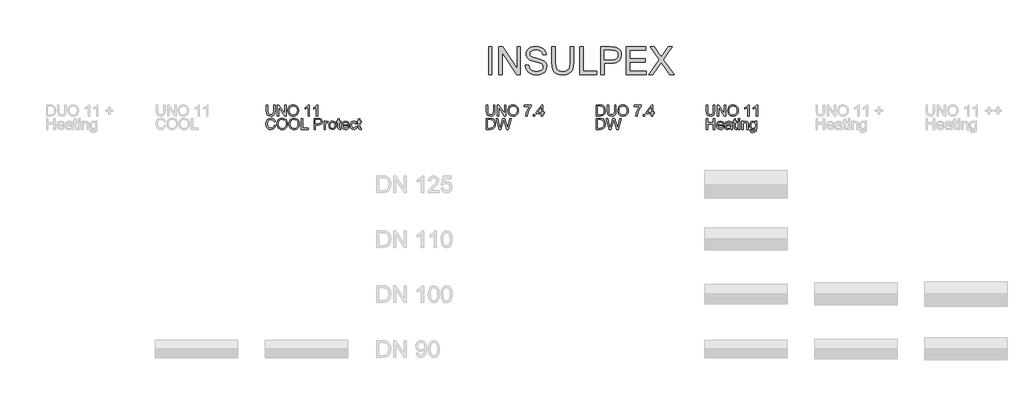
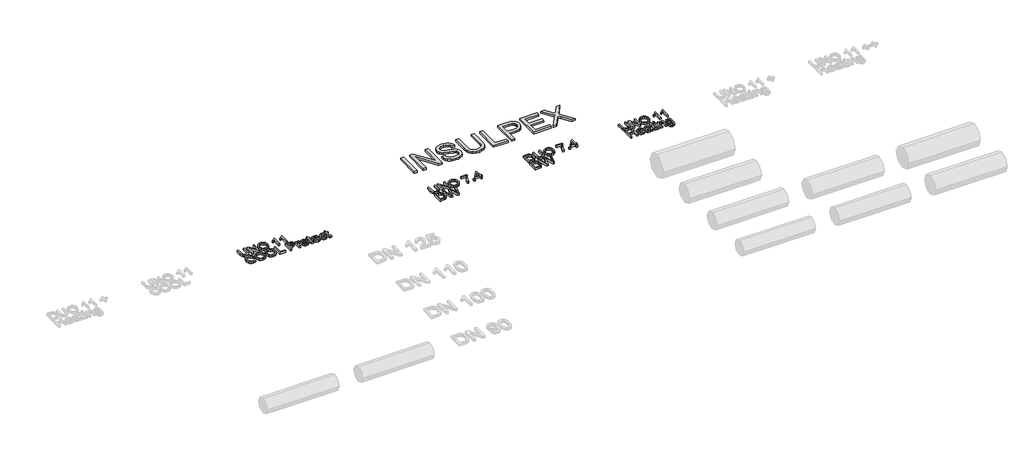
# One storey, part 34 of 44: 5 proxies.
"""IFC4 building model written with IfcOpenShell, lengths in millimetres."""

from ifc_helpers import new_model, si_unit, origin, origin_with_axes, place, context, project, spatial, polyline, outline, extrude, element, save

model = new_model("IFC4")

# Units and contexts
model_context = context("Model", 3, world=origin())
ifc_project = project(units=[si_unit("LENGTHUNIT", "METRE", prefix="MILLI")], contexts=[model_context])

# Site, building, storey
site = spatial("IfcSite", under=ifc_project)
building = spatial("IfcBuilding", under=site)
storey = spatial("IfcBuildingStorey", under=building, Name="REHAU Starting view", Elevation=0.0)

# Proxies
placement = place(None, origin())
element("IfcBuildingElementProxy", 1, Name="100", ObjectType="100", at=placement, inside=storey, context=model_context, shape_type="SweptSolid", body=[
    extrude(outline(polyline([(14076.9118625, 20222.431128), (14089.4689012, 20222.431128), (14089.4689012, 20164.477451), (14086.0598614, 20140.4547567), (14073.7726028, 20125.9847316), (14063.5086951, 20121.8000739), (14050.4734097, 20120.405188), (14027.529836, 20125.2612303), (14019.8901532, 20131.2055902), (14014.8011189, 20139.3265853), (14010.9874089, 20164.477451), (14010.9874089, 20222.431128), (14023.5444477, 20222.431128), (14023.5444477, 20164.9189094), (14026.0215198, 20145.7767829), (14034.5318566, 20136.2976902), (14049.2961874, 20132.9622268), (14062.067824, 20134.6115644), (14070.5597667, 20139.5595772), (14075.3238385, 20149.1980855), (14076.9118625, 20164.9189094), (14076.9118625, 20222.431128)])), origin_with_axes(), (0.0, 0.0, 1.0), 20.0),
    extrude(outline(polyline([(14111.4437191, 20121.9748178), (14111.4437191, 20222.431128), (14124.8836746, 20222.431128), (14177.3681726, 20142.8459897), (14177.3681726, 20222.431128), (14189.9252114, 20222.431128), (14189.9252114, 20121.9748178), (14176.4852558, 20121.9748178), (14124.0007578, 20201.5844816), (14124.0007578, 20121.9748178), (14111.4437191, 20121.9748178)])), origin_with_axes(), (0.0, 0.0, 1.0), 20.0),
    extrude(outline(polyline([(14207.1911397, 20170.8785977), (14210.5388658, 20193.0925389), (14220.5820443, 20209.8986147), (14235.9165921, 20220.4752221), (14255.1384264, 20224.0007578), (14268.3147332, 20222.3452889), (14280.1298766, 20217.3788819), (14289.9400631, 20209.4510249), (14297.1014993, 20198.9112058), (14301.479295, 20186.2683279), (14302.9385603, 20172.0312947), (14301.402653, 20157.6041891), (14296.794931, 20144.7835015), (14289.369846, 20134.2252883), (14279.3818499, 20126.5856055), (14267.667874, 20121.9502924), (14255.06485, 20120.405188), (14241.6862081, 20122.1127736), (14229.8036197, 20127.2355304), (14220.0179586, 20135.3105402), (14212.9300988, 20145.8748848), (14207.1911397, 20170.8785977)]), holes=[polyline([(14219.7481785, 20170.7559704), (14222.2589731, 20155.0412778), (14229.7913569, 20143.0667189), (14241.1129253, 20135.4883498), (14254.9912736, 20132.9622268), (14269.071957, 20135.5128753), (14280.4119195, 20143.1648208), (14287.889121, 20155.5072617), (14290.3815215, 20172.1293965), (14286.1140904, 20192.8534156), (14273.6428907, 20206.575414), (14255.2120028, 20211.4437191), (14241.7046022, 20209.0984714), (14230.2205526, 20202.0627282), (14222.366272, 20189.5455433), (14219.7481785, 20170.7559704)])]), origin_with_axes(), (0.0, 0.0, 1.0), 20.0),
    extrude(outline(polyline([(14401.8252406, 20121.9748178), (14389.2682018, 20121.9748178), (14389.2682018, 20200.2601064), (14377.3733507, 20191.7865578), (14364.1541243, 20185.4467247), (14364.1541243, 20197.3170505), (14382.5604868, 20209.0647488), (14393.7318367, 20222.431128), (14401.8252406, 20222.431128), (14401.8252406, 20121.9748178)])), origin_with_axes(), (0.0, 0.0, 1.0), 20.0),
    extrude(outline(polyline([(14478.7371031, 20121.9748178), (14466.1800643, 20121.9748178), (14466.1800643, 20200.2601064), (14454.2852131, 20191.7865578), (14441.0659868, 20185.4467247), (14441.0659868, 20197.3170505), (14459.4723492, 20209.0647488), (14470.6436992, 20222.431128), (14478.7371031, 20222.431128), (14478.7371031, 20121.9748178)])), origin_with_axes(), (0.0, 0.0, 1.0), 20.0),
    extrude(outline(polyline([(14081.620752, 20035.709079), (14094.1777908, 20032.4717174), (14088.3836493, 20017.8392111), (14079.2908327, 20007.1491734), (14067.3469306, 20000.610071), (14052.9995328, 19998.4303702), (14038.4344714, 20000.0797078), (14026.8676484, 20005.0277206), (14018.0016923, 20013.1027304), (14011.5392319, 20024.1330589), (14006.2785194, 20050.9884445), (14007.7653758, 20065.6362793), (14012.225945, 20078.2852886), (14019.427235, 20088.5338678), (14029.136254, 20095.9804125), (14040.6509605, 20100.5145581), (14053.2693129, 20102.02594), (14067.0372966, 20100.0700341), (14078.4201786, 20094.2023162), (14087.0623398, 20084.7845372), (14092.6081609, 20072.1784475), (14080.0511222, 20069.1863406), (14069.7504263, 20084.6251216), (14052.7788036, 20089.4689012), (14033.133905, 20084.0978241), (14022.0361315, 20069.6768499), (14018.8355582, 20051.01297), (14022.6247427, 20029.3815087), (14034.421492, 20015.5614084), (14051.748734, 20010.9874089), (14062.2303052, 20012.544776), (14070.9644369, 20017.2168774), (14077.5587216, 20024.954662), (14081.620752, 20035.709079)])), origin_with_axes(), (0.0, 0.0, 1.0), 20.0),
    extrude(outline(polyline([(14106.7348295, 20048.9037799), (14110.0825557, 20071.117721), (14120.1257342, 20087.9237968), (14135.460282, 20098.5004042), (14154.6821162, 20102.02594), (14167.858423, 20100.370471), (14179.6735664, 20095.4040641), (14189.483753, 20087.4762071), (14196.6451892, 20076.9363879), (14201.0229849, 20064.29351), (14202.4822501, 20050.0564768), (14200.9463428, 20035.6293712), (14196.3386208, 20022.8086837), (14188.9135359, 20012.2504704), (14178.9255397, 20004.6107877), (14167.2115639, 19999.9754745), (14154.6085398, 19998.4303702), (14141.2298979, 20000.1379557), (14129.3473095, 20005.2607125), (14119.5616484, 20013.3357223), (14112.4737887, 20023.900067), (14106.7348295, 20048.9037799)]), holes=[polyline([(14119.2918683, 20048.7811526), (14121.8026629, 20033.06646), (14129.3350468, 20021.0919011), (14140.6566152, 20013.513532), (14154.5349634, 20010.9874089), (14168.6156468, 20013.5380574), (14179.9556093, 20021.1900029), (14187.4328109, 20033.5324439), (14189.9252114, 20050.1545787), (14185.6577802, 20070.8785977), (14173.1865806, 20084.6005962), (14154.7556926, 20089.4689012), (14141.248292, 20087.1236535), (14129.7642424, 20080.0879103), (14121.9099618, 20067.5707255), (14119.2918683, 20048.7811526)])]), origin_with_axes(), (0.0, 0.0, 1.0), 20.0),
    extrude(outline(polyline([(14215.0392889, 20048.9037799), (14218.3870151, 20071.117721), (14228.4301935, 20087.9237968), (14243.7647414, 20098.5004042), (14262.9865756, 20102.02594), (14276.1628824, 20100.370471), (14287.9780258, 20095.4040641), (14297.7882124, 20087.4762071), (14304.9496485, 20076.9363879), (14309.3274443, 20064.29351), (14310.7867095, 20050.0564768), (14309.2508022, 20035.6293712), (14304.6430802, 20022.8086837), (14297.2179953, 20012.2504704), (14287.2299991, 20004.6107877), (14275.5160232, 19999.9754745), (14262.9129992, 19998.4303702), (14249.5343573, 20000.1379557), (14237.6517689, 20005.2607125), (14227.8661078, 20013.3357223), (14220.778248, 20023.900067), (14215.0392889, 20048.9037799)]), holes=[polyline([(14227.5963277, 20048.7811526), (14230.1071223, 20033.06646), (14237.6395062, 20021.0919011), (14248.9610746, 20013.513532), (14262.8394228, 20010.9874089), (14276.9201062, 20013.5380574), (14288.2600687, 20021.1900029), (14295.7372702, 20033.5324439), (14298.2296708, 20050.1545787), (14293.9622396, 20070.8785977), (14281.49104, 20084.6005962), (14263.060152, 20089.4689012), (14249.5527514, 20087.1236535), (14238.0687018, 20080.0879103), (14230.2144212, 20067.5707255), (14227.5963277, 20048.7811526)])]), origin_with_axes(), (0.0, 0.0, 1.0), 20.0),
    extrude(outline(polyline([(14328.0526378, 20000.0), (14328.0526378, 20100.4563101), (14340.6096766, 20100.4563101), (14340.6096766, 20012.5570388), (14390.8378317, 20012.5570388), (14390.8378317, 20000.0), (14328.0526378, 20000.0)])), origin_with_axes(), (0.0, 0.0, 1.0), 20.0),
    extrude(outline(polyline([(14444.2052464, 20000.0), (14444.2052464, 20100.4563101), (14481.4349044, 20100.4563101), (14496.4444898, 20099.499817), (14508.6459093, 20094.8031902), (14516.5553722, 20085.0911055), (14519.5474791, 20071.3936325), (14517.5271938, 20059.5539637), (14511.4663379, 20049.6885948), (14500.1325068, 20043.0299307), (14482.2932957, 20040.810376), (14456.7622852, 20040.810376), (14456.7622852, 20000.0), (14444.2052464, 20000.0)]), holes=[polyline([(14456.7622852, 20053.3674148), (14483.0290597, 20053.3674148), (14501.5212613, 20057.9782024), (14505.6231455, 20063.5270892), (14506.9904403, 20070.9521741), (14503.7653415, 20081.3509719), (14495.2917928, 20087.0408801), (14482.7347541, 20087.8992714), (14456.7622852, 20087.8992714), (14456.7622852, 20053.3674148)])]), origin_with_axes(), (0.0, 0.0, 1.0), 20.0),
    extrude(outline(polyline([(14535.2437775, 20000.0), (14535.2437775, 20073.7726028), (14546.2311864, 20073.7726028), (14546.2311864, 20062.8587702), (14554.0302847, 20072.9142114), (14561.878434, 20075.3422326), (14574.4845237, 20071.4672089), (14570.2906689, 20060.2100199), (14561.461501, 20062.7851938), (14554.3613785, 20060.3081217), (14549.83643, 20053.4409912), (14547.8008163, 20038.7747623), (14547.8008163, 20000.0), (14535.2437775, 20000.0)])), origin_with_axes(), (0.0, 0.0, 1.0), 20.0),
    extrude(outline(polyline([(14579.1934132, 20036.8863014), (14581.9096086, 20054.6733958), (14590.0581948, 20067.1752523), (14600.1258987, 20073.3004875), (14612.1801654, 20075.3422326), (14625.3718007, 20072.8559635), (14635.9085541, 20065.397156), (14642.8155386, 20053.5544214), (14645.1178667, 20037.916371), (14641.0466393, 20015.5736711), (14629.1885764, 20002.9307932), (14612.1801654, 19998.4303702), (14598.8291147, 20000.9074423), (14588.304624, 20008.3386586), (14581.4712159, 20020.4297135), (14579.1934132, 20036.8863014)]), holes=[polyline([(14591.750452, 20036.9108268), (14593.2035859, 20025.5463389), (14597.5629875, 20017.4498693), (14604.1235497, 20012.603024), (14612.1801654, 20010.9874089), (14620.1999929, 20012.6122211), (14626.7482924, 20017.4866575), (14631.1076941, 20025.690426), (14632.560828, 20037.3032343), (14631.098497, 20048.3366285), (14626.7115043, 20056.3227335), (14620.1540077, 20061.1695787), (14612.1801654, 20062.7851938), (14604.1235497, 20061.1757101), (14597.5629875, 20056.3472589), (14593.2035859, 20048.2691835), (14591.750452, 20036.9108268)])]), origin_with_axes(), (0.0, 0.0, 1.0), 20.0),
    extrude(outline(polyline([(14685.9282427, 20010.4723741), (14687.4978726, 19999.632118), (14678.104619, 19998.4303702), (14667.5831939, 20000.5150348), (14662.3347441, 20005.9842138), (14660.8141652, 20020.2335097), (14660.8141652, 20061.215564), (14651.3963861, 20061.215564), (14651.3963861, 20073.7726028), (14660.8141652, 20073.7726028), (14660.8141652, 20091.7007187), (14673.371204, 20099.082884), (14673.371204, 20073.7726028), (14685.9282427, 20073.7726028), (14685.9282427, 20061.215564), (14673.371204, 20061.215564), (14673.371204, 20020.6013917), (14674.0333916, 20014.1266686), (14676.1793699, 20011.8335375), (14680.4590637, 20010.9874089), (14685.9282427, 20010.4723741)])), origin_with_axes(), (0.0, 0.0, 1.0), 20.0),
    extrude(outline(polyline([(14750.1359136, 20021.9748178), (14762.4476977, 20020.405188), (14758.011654, 20011.1284304), (14750.9329913, 20004.1938547), (14741.3711251, 19999.8712413), (14729.485471, 19998.4303702), (14714.7517971, 20000.9166393), (14703.4149002, 20008.3754468), (14696.186019, 20020.3224146), (14693.776392, 20036.2731647), (14696.2105445, 20052.7604095), (14703.5130021, 20065.0905877), (14714.6966148, 20072.7793214), (14728.7742324, 20075.3422326), (14742.4134574, 20072.7854527), (14753.3119615, 20065.1151131), (14760.4580693, 20052.8094604), (14762.8401052, 20036.3467411), (14762.7665288, 20032.9622268), (14706.3334307, 20032.9622268), (14708.5070002, 20023.5628418), (14713.5561806, 20016.6527916), (14720.8433098, 20012.4037546), (14729.7307256, 20010.9874089), (14742.0425097, 20013.6116338), (14750.1359136, 20021.9748178)]), holes=[polyline([(14706.3334307, 20045.5192655), (14750.2830664, 20045.5192655), (14745.2553458, 20056.8990819), (14737.9344941, 20061.3136659), (14728.7251815, 20062.7851938), (14713.261875, 20058.088567), (14708.3966356, 20052.5979283), (14706.3334307, 20045.5192655)])]), origin_with_axes(), (0.0, 0.0, 1.0), 20.0),
    extrude(outline(polyline([(14822.4860393, 20026.6837074), (14835.0430781, 20025.1140775), (14831.5420678, 20013.9457933), (14824.9631115, 20005.5059672), (14815.9254771, 20000.1992694), (14805.0484328, 19998.4303702), (14791.6912507, 20000.8982452), (14781.2464677, 20008.3018704), (14774.5050301, 20020.3162832), (14772.2578843, 20036.6165213), (14776.0961198, 20057.4754304), (14787.7947672, 20070.8785977), (14804.8767545, 20075.3422326), (14815.4870844, 20073.809391), (14823.9698301, 20069.210866), (14830.0552114, 20061.7919125), (14833.4734483, 20051.7977849), (14820.9164095, 20050.2281551), (14815.0916112, 20059.6336714), (14804.9748564, 20062.7851938), (14796.8599927, 20061.2339581), (14790.4189921, 20056.5802509), (14786.2159403, 20048.5726861), (14784.814923, 20036.9598778), (14786.1852835, 20025.1907196), (14790.2963648, 20017.1555637), (14796.6208694, 20012.5294476), (14804.6314999, 20010.9874089), (14816.4650374, 20014.8379071), (14822.4860393, 20026.6837074)])), origin_with_axes(), (0.0, 0.0, 1.0), 20.0),
    extrude(outline(polyline([(14872.7141944, 20010.4723741), (14874.2838243, 19999.632118), (14864.8905707, 19998.4303702), (14854.3691456, 20000.5150348), (14849.1206958, 20005.9842138), (14847.6001169, 20020.2335097), (14847.6001169, 20061.215564), (14838.1823378, 20061.215564), (14838.1823378, 20073.7726028), (14847.6001169, 20073.7726028), (14847.6001169, 20091.7007187), (14860.1571557, 20099.082884), (14860.1571557, 20073.7726028), (14872.7141944, 20073.7726028), (14872.7141944, 20061.215564), (14860.1571557, 20061.215564), (14860.1571557, 20020.6013917), (14860.8193432, 20014.1266686), (14862.9653216, 20011.8335375), (14867.2450154, 20010.9874089), (14872.7141944, 20010.4723741)])), origin_with_axes(), (0.0, 0.0, 1.0), 20.0),
])
element("IfcBuildingElementProxy", 2, Name="100", ObjectType="100", at=placement, inside=storey, context=model_context, shape_type="SweptSolid", body=[
    extrude(outline(polyline([(16076.9118625, 20222.431128), (16089.4689012, 20222.431128), (16089.4689012, 20164.477451), (16086.0598614, 20140.4547567), (16073.7726028, 20125.9847316), (16063.5086951, 20121.8000739), (16050.4734097, 20120.405188), (16027.529836, 20125.2612303), (16019.8901532, 20131.2055902), (16014.8011189, 20139.3265853), (16010.9874089, 20164.477451), (16010.9874089, 20222.431128), (16023.5444477, 20222.431128), (16023.5444477, 20164.9189094), (16026.0215198, 20145.7767829), (16034.5318566, 20136.2976902), (16049.2961874, 20132.9622268), (16062.067824, 20134.6115644), (16070.5597667, 20139.5595772), (16075.3238385, 20149.1980855), (16076.9118625, 20164.9189094), (16076.9118625, 20222.431128)])), origin_with_axes(), (0.0, 0.0, 1.0), 20.0),
    extrude(outline(polyline([(16111.4437191, 20121.9748178), (16111.4437191, 20222.431128), (16124.8836746, 20222.431128), (16177.3681726, 20142.8459897), (16177.3681726, 20222.431128), (16189.9252114, 20222.431128), (16189.9252114, 20121.9748178), (16176.4852558, 20121.9748178), (16124.0007578, 20201.5844816), (16124.0007578, 20121.9748178), (16111.4437191, 20121.9748178)])), origin_with_axes(), (0.0, 0.0, 1.0), 20.0),
    extrude(outline(polyline([(16207.1911397, 20170.8785977), (16210.5388658, 20193.0925389), (16220.5820443, 20209.8986147), (16235.9165921, 20220.4752221), (16255.1384264, 20224.0007578), (16268.3147332, 20222.3452889), (16280.1298766, 20217.3788819), (16289.9400631, 20209.4510249), (16297.1014993, 20198.9112058), (16301.479295, 20186.2683279), (16302.9385603, 20172.0312947), (16301.402653, 20157.6041891), (16296.794931, 20144.7835015), (16289.369846, 20134.2252883), (16279.3818499, 20126.5856055), (16267.667874, 20121.9502924), (16255.06485, 20120.405188), (16241.6862081, 20122.1127736), (16229.8036197, 20127.2355304), (16220.0179586, 20135.3105402), (16212.9300988, 20145.8748848), (16207.1911397, 20170.8785977)]), holes=[polyline([(16219.7481785, 20170.7559704), (16222.2589731, 20155.0412778), (16229.7913569, 20143.0667189), (16241.1129253, 20135.4883498), (16254.9912736, 20132.9622268), (16269.071957, 20135.5128753), (16280.4119195, 20143.1648208), (16287.889121, 20155.5072617), (16290.3815215, 20172.1293965), (16286.1140904, 20192.8534156), (16273.6428907, 20206.575414), (16255.2120028, 20211.4437191), (16241.7046022, 20209.0984714), (16230.2205526, 20202.0627282), (16222.366272, 20189.5455433), (16219.7481785, 20170.7559704)])]), origin_with_axes(), (0.0, 0.0, 1.0), 20.0),
    extrude(outline(polyline([(16354.7363452, 20208.3044594), (16354.7363452, 20220.8614981), (16420.6607988, 20220.8614981), (16420.6607988, 20210.7079551), (16401.9601307, 20183.6931539), (16387.6495211, 20149.2716619), (16382.9896824, 20121.9748178), (16370.4326437, 20121.9748178), (16375.4235761, 20150.3017315), (16389.121049, 20182.3197278), (16408.10376, 20208.3044594), (16354.7363452, 20208.3044594)])), origin_with_axes(), (0.0, 0.0, 1.0), 20.0),
    extrude(outline(polyline([(16437.9267271, 20121.9748178), (16437.9267271, 20134.5318566), (16450.4837658, 20134.5318566), (16450.4837658, 20121.9748178), (16437.9267271, 20121.9748178)])), origin_with_axes(), (0.0, 0.0, 1.0), 20.0),
    extrude(outline(polyline([(16511.6993298, 20121.9748178), (16511.6993298, 20145.5192655), (16466.1800643, 20145.5192655), (16466.1800643, 20158.0763043), (16514.8385895, 20220.8614981), (16524.2563686, 20220.8614981), (16524.2563686, 20158.0763043), (16536.8134074, 20158.0763043), (16536.8134074, 20145.5192655), (16524.2563686, 20145.5192655), (16524.2563686, 20121.9748178), (16511.6993298, 20121.9748178)]), holes=[polyline([(16511.6993298, 20158.0763043), (16511.6993298, 20196.8755921), (16481.6311081, 20158.0763043), (16511.6993298, 20158.0763043)])]), origin_with_axes(), (0.0, 0.0, 1.0), 20.0),
    extrude(outline(polyline([(16010.9874089, 20000.0), (16010.9874089, 20100.4563101), (16045.6418929, 20100.4563101), (16063.5700088, 20099.0093076), (16078.3343395, 20091.823346), (16090.2291907, 20074.6555196), (16094.1777908, 20050.7677153), (16091.5045149, 20030.4974174), (16084.6373844, 20015.8679767), (16075.4648599, 20006.756766), (16063.4596442, 20001.7167826), (16047.3096246, 20000.0), (16010.9874089, 20000.0)]), holes=[polyline([(16023.5444477, 20012.5570388), (16045.7645202, 20012.5570388), (16061.9268025, 20014.3719233), (16071.2464797, 20019.4977457), (16078.8861625, 20031.9689454), (16081.620752, 20050.9639191), (16080.2810484, 20064.6491293), (16076.2619376, 20074.7536214), (16063.2266522, 20085.8881831), (16045.4211637, 20087.8992714), (16023.5444477, 20087.8992714), (16023.5444477, 20012.5570388)])]), origin_with_axes(), (0.0, 0.0, 1.0), 20.0),
    extrude(outline(polyline([(16129.4208859, 20000.0), (16102.02594, 20100.4563101), (16114.9753862, 20100.4563101), (16130.8678884, 20034.4337547), (16135.7729817, 20014.0530922), (16141.0214315, 20032.07931), (16160.9361102, 20100.4563101), (16179.59999, 20100.4563101), (16194.0700152, 20050.8903427), (16204.8366949, 20014.0530922), (16209.5946354, 20033.8451436), (16225.6342904, 20100.4563101), (16238.5837366, 20100.4563101), (16211.1642652, 20000.0), (16197.7488351, 20000.0), (16173.6648272, 20077.5004737), (16170.3048383, 20088.3162043), (16166.5279165, 20075.2931817), (16144.5776241, 20000.0), (16129.4208859, 20000.0)])), origin_with_axes(), (0.0, 0.0, 1.0), 20.0),
])
element("IfcBuildingElementProxy", 3, Name="100", ObjectType="100", at=placement, inside=storey, context=model_context, shape_type="SweptSolid", body=[
    extrude(outline(polyline([(17010.9874089, 20121.9748178), (17010.9874089, 20222.431128), (17045.6418929, 20222.431128), (17063.5700088, 20220.9841255), (17078.3343395, 20213.7981638), (17090.2291907, 20196.6303374), (17094.1777908, 20172.7425332), (17091.5045149, 20152.4722352), (17084.6373844, 20137.8427946), (17075.4648599, 20128.7315838), (17063.4596442, 20123.6916005), (17047.3096246, 20121.9748178), (17010.9874089, 20121.9748178)]), holes=[polyline([(17023.5444477, 20134.5318566), (17045.7645202, 20134.5318566), (17061.9268025, 20136.3467411), (17071.2464797, 20141.4725636), (17078.8861625, 20153.9437632), (17081.620752, 20172.9387369), (17080.2810484, 20186.6239471), (17076.2619376, 20196.7284393), (17063.2266522, 20207.863001), (17045.4211637, 20209.8740892), (17023.5444477, 20209.8740892), (17023.5444477, 20134.5318566)])]), origin_with_axes(), (0.0, 0.0, 1.0), 20.0),
    extrude(outline(polyline([(17177.3681726, 20222.431128), (17189.9252114, 20222.431128), (17189.9252114, 20164.477451), (17186.5161716, 20140.4547567), (17174.2289129, 20125.9847316), (17163.9650053, 20121.8000739), (17150.9297199, 20120.405188), (17127.9861461, 20125.2612303), (17120.3464634, 20131.2055902), (17115.2574291, 20139.3265853), (17111.4437191, 20164.477451), (17111.4437191, 20222.431128), (17124.0007578, 20222.431128), (17124.0007578, 20164.9189094), (17126.4778299, 20145.7767829), (17134.9881668, 20136.2976902), (17149.7524975, 20132.9622268), (17162.5241341, 20134.6115644), (17171.0160768, 20139.5595772), (17175.7801487, 20149.1980855), (17177.3681726, 20164.9189094), (17177.3681726, 20222.431128)])), origin_with_axes(), (0.0, 0.0, 1.0), 20.0),
    extrude(outline(polyline([(17207.1911397, 20170.8785977), (17210.5388658, 20193.0925389), (17220.5820443, 20209.8986147), (17235.9165921, 20220.4752221), (17255.1384264, 20224.0007578), (17268.3147332, 20222.3452889), (17280.1298766, 20217.3788819), (17289.9400631, 20209.4510249), (17297.1014993, 20198.9112058), (17301.479295, 20186.2683279), (17302.9385603, 20172.0312947), (17301.402653, 20157.6041891), (17296.794931, 20144.7835015), (17289.369846, 20134.2252883), (17279.3818499, 20126.5856055), (17267.667874, 20121.9502924), (17255.06485, 20120.405188), (17241.6862081, 20122.1127736), (17229.8036197, 20127.2355304), (17220.0179586, 20135.3105402), (17212.9300988, 20145.8748848), (17207.1911397, 20170.8785977)]), holes=[polyline([(17219.7481785, 20170.7559704), (17222.2589731, 20155.0412778), (17229.7913569, 20143.0667189), (17241.1129253, 20135.4883498), (17254.9912736, 20132.9622268), (17269.071957, 20135.5128753), (17280.4119195, 20143.1648208), (17287.889121, 20155.5072617), (17290.3815215, 20172.1293965), (17286.1140904, 20192.8534156), (17273.6428907, 20206.575414), (17255.2120028, 20211.4437191), (17241.7046022, 20209.0984714), (17230.2205526, 20202.0627282), (17222.366272, 20189.5455433), (17219.7481785, 20170.7559704)])]), origin_with_axes(), (0.0, 0.0, 1.0), 20.0),
    extrude(outline(polyline([(17354.7363452, 20208.3044594), (17354.7363452, 20220.8614981), (17420.6607988, 20220.8614981), (17420.6607988, 20210.7079551), (17401.9601307, 20183.6931539), (17387.6495211, 20149.2716619), (17382.9896824, 20121.9748178), (17370.4326437, 20121.9748178), (17375.4235761, 20150.3017315), (17389.121049, 20182.3197278), (17408.10376, 20208.3044594), (17354.7363452, 20208.3044594)])), origin_with_axes(), (0.0, 0.0, 1.0), 20.0),
    extrude(outline(polyline([(17437.9267271, 20121.9748178), (17437.9267271, 20134.5318566), (17450.4837658, 20134.5318566), (17450.4837658, 20121.9748178), (17437.9267271, 20121.9748178)])), origin_with_axes(), (0.0, 0.0, 1.0), 20.0),
    extrude(outline(polyline([(17511.6993298, 20121.9748178), (17511.6993298, 20145.5192655), (17466.1800643, 20145.5192655), (17466.1800643, 20158.0763043), (17514.8385895, 20220.8614981), (17524.2563686, 20220.8614981), (17524.2563686, 20158.0763043), (17536.8134074, 20158.0763043), (17536.8134074, 20145.5192655), (17524.2563686, 20145.5192655), (17524.2563686, 20121.9748178), (17511.6993298, 20121.9748178)]), holes=[polyline([(17511.6993298, 20158.0763043), (17511.6993298, 20196.8755921), (17481.6311081, 20158.0763043), (17511.6993298, 20158.0763043)])]), origin_with_axes(), (0.0, 0.0, 1.0), 20.0),
    extrude(outline(polyline([(17010.9874089, 20000.0), (17010.9874089, 20100.4563101), (17045.6418929, 20100.4563101), (17063.5700088, 20099.0093076), (17078.3343395, 20091.823346), (17090.2291907, 20074.6555196), (17094.1777908, 20050.7677153), (17091.5045149, 20030.4974174), (17084.6373844, 20015.8679767), (17075.4648599, 20006.756766), (17063.4596442, 20001.7167826), (17047.3096246, 20000.0), (17010.9874089, 20000.0)]), holes=[polyline([(17023.5444477, 20012.5570388), (17045.7645202, 20012.5570388), (17061.9268025, 20014.3719233), (17071.2464797, 20019.4977457), (17078.8861625, 20031.9689454), (17081.620752, 20050.9639191), (17080.2810484, 20064.6491293), (17076.2619376, 20074.7536214), (17063.2266522, 20085.8881831), (17045.4211637, 20087.8992714), (17023.5444477, 20087.8992714), (17023.5444477, 20012.5570388)])]), origin_with_axes(), (0.0, 0.0, 1.0), 20.0),
    extrude(outline(polyline([(17129.4208859, 20000.0), (17102.02594, 20100.4563101), (17114.9753862, 20100.4563101), (17130.8678884, 20034.4337547), (17135.7729817, 20014.0530922), (17141.0214315, 20032.07931), (17160.9361102, 20100.4563101), (17179.59999, 20100.4563101), (17194.0700152, 20050.8903427), (17204.8366949, 20014.0530922), (17209.5946354, 20033.8451436), (17225.6342904, 20100.4563101), (17238.5837366, 20100.4563101), (17211.1642652, 20000.0), (17197.7488351, 20000.0), (17173.6648272, 20077.5004737), (17170.3048383, 20088.3162043), (17166.5279165, 20075.2931817), (17144.5776241, 20000.0), (17129.4208859, 20000.0)])), origin_with_axes(), (0.0, 0.0, 1.0), 20.0),
])
element("IfcBuildingElementProxy", 4, Name="100", ObjectType="100", at=placement, inside=storey, context=model_context, shape_type="SweptSolid", body=[
    extrude(outline(polyline([(18076.9118625, 20222.431128), (18089.4689012, 20222.431128), (18089.4689012, 20164.477451), (18086.0598614, 20140.4547567), (18073.7726028, 20125.9847316), (18063.5086951, 20121.8000739), (18050.4734097, 20120.405188), (18027.529836, 20125.2612303), (18019.8901532, 20131.2055902), (18014.8011189, 20139.3265853), (18010.9874089, 20164.477451), (18010.9874089, 20222.431128), (18023.5444477, 20222.431128), (18023.5444477, 20164.9189094), (18026.0215198, 20145.7767829), (18034.5318566, 20136.2976902), (18049.2961874, 20132.9622268), (18062.067824, 20134.6115644), (18070.5597667, 20139.5595772), (18075.3238385, 20149.1980855), (18076.9118625, 20164.9189094), (18076.9118625, 20222.431128)])), origin_with_axes(), (0.0, 0.0, 1.0), 20.0),
    extrude(outline(polyline([(18111.4437191, 20121.9748178), (18111.4437191, 20222.431128), (18124.8836746, 20222.431128), (18177.3681726, 20142.8459897), (18177.3681726, 20222.431128), (18189.9252114, 20222.431128), (18189.9252114, 20121.9748178), (18176.4852558, 20121.9748178), (18124.0007578, 20201.5844816), (18124.0007578, 20121.9748178), (18111.4437191, 20121.9748178)])), origin_with_axes(), (0.0, 0.0, 1.0), 20.0),
    extrude(outline(polyline([(18207.1911397, 20170.8785977), (18210.5388658, 20193.0925389), (18220.5820443, 20209.8986147), (18235.9165921, 20220.4752221), (18255.1384264, 20224.0007578), (18268.3147332, 20222.3452889), (18280.1298766, 20217.3788819), (18289.9400631, 20209.4510249), (18297.1014993, 20198.9112058), (18301.479295, 20186.2683279), (18302.9385603, 20172.0312947), (18301.402653, 20157.6041891), (18296.794931, 20144.7835015), (18289.369846, 20134.2252883), (18279.3818499, 20126.5856055), (18267.667874, 20121.9502924), (18255.06485, 20120.405188), (18241.6862081, 20122.1127736), (18229.8036197, 20127.2355304), (18220.0179586, 20135.3105402), (18212.9300988, 20145.8748848), (18207.1911397, 20170.8785977)]), holes=[polyline([(18219.7481785, 20170.7559704), (18222.2589731, 20155.0412778), (18229.7913569, 20143.0667189), (18241.1129253, 20135.4883498), (18254.9912736, 20132.9622268), (18269.071957, 20135.5128753), (18280.4119195, 20143.1648208), (18287.889121, 20155.5072617), (18290.3815215, 20172.1293965), (18286.1140904, 20192.8534156), (18273.6428907, 20206.575414), (18255.2120028, 20211.4437191), (18241.7046022, 20209.0984714), (18230.2205526, 20202.0627282), (18222.366272, 20189.5455433), (18219.7481785, 20170.7559704)])]), origin_with_axes(), (0.0, 0.0, 1.0), 20.0),
    extrude(outline(polyline([(18401.8252406, 20121.9748178), (18389.2682018, 20121.9748178), (18389.2682018, 20200.2601064), (18377.3733507, 20191.7865578), (18364.1541243, 20185.4467247), (18364.1541243, 20197.3170505), (18382.5604868, 20209.0647488), (18393.7318367, 20222.431128), (18401.8252406, 20222.431128), (18401.8252406, 20121.9748178)])), origin_with_axes(), (0.0, 0.0, 1.0), 20.0),
    extrude(outline(polyline([(18478.7371031, 20121.9748178), (18466.1800643, 20121.9748178), (18466.1800643, 20200.2601064), (18454.2852131, 20191.7865578), (18441.0659868, 20185.4467247), (18441.0659868, 20197.3170505), (18459.4723492, 20209.0647488), (18470.6436992, 20222.431128), (18478.7371031, 20222.431128), (18478.7371031, 20121.9748178)])), origin_with_axes(), (0.0, 0.0, 1.0), 20.0),
    extrude(outline(polyline([(18010.9874089, 20000.0), (18010.9874089, 20100.4563101), (18023.5444477, 20100.4563101), (18023.5444477, 20059.6459342), (18076.9118625, 20059.6459342), (18076.9118625, 20100.4563101), (18089.4689012, 20100.4563101), (18089.4689012, 20000.0), (18076.9118625, 20000.0), (18076.9118625, 20047.0888954), (18023.5444477, 20047.0888954), (18023.5444477, 20000.0), (18010.9874089, 20000.0)])), origin_with_axes(), (0.0, 0.0, 1.0), 20.0),
    extrude(outline(polyline([(18161.5247213, 20021.9748178), (18173.8365055, 20020.405188), (18169.4004617, 20011.1284304), (18162.321799, 20004.1938547), (18152.7599328, 19999.8712413), (18140.8742787, 19998.4303702), (18126.1406048, 20000.9166393), (18114.803708, 20008.3754468), (18107.5748268, 20020.3224146), (18105.1651997, 20036.2731647), (18107.5993522, 20052.7604095), (18114.9018098, 20065.0905877), (18126.0854225, 20072.7793214), (18140.1630402, 20075.3422326), (18153.8022651, 20072.7854527), (18164.7007692, 20065.1151131), (18171.846877, 20052.8094604), (18174.2289129, 20036.3467411), (18174.1553365, 20032.9622268), (18117.7222385, 20032.9622268), (18119.8958079, 20023.5628418), (18124.9449883, 20016.6527916), (18132.2321175, 20012.4037546), (18141.1195333, 20010.9874089), (18153.4313175, 20013.6116338), (18161.5247213, 20021.9748178)]), holes=[polyline([(18117.7222385, 20045.5192655), (18161.6718741, 20045.5192655), (18156.6441535, 20056.8990819), (18149.3233018, 20061.3136659), (18140.1139892, 20062.7851938), (18124.6506827, 20058.088567), (18119.7854433, 20052.5979283), (18117.7222385, 20045.5192655)])]), origin_with_axes(), (0.0, 0.0, 1.0), 20.0),
    extrude(outline(polyline([(18233.8748471, 20009.4177791), (18221.697953, 20000.9074423), (18208.2457347, 19998.4303702), (18197.7519008, 19999.9202922), (18190.0110505, 20004.3900585), (18185.2377816, 20011.1774813), (18183.646692, 20019.6203731), (18186.0501877, 20029.5531869), (18192.3654953, 20036.7636741), (18201.157875, 20040.8839524), (18212.0226566, 20042.7724133), (18233.8012707, 20047.0888954), (18233.8748471, 20049.8847985), (18230.4167563, 20059.1554248), (18216.5353424, 20062.7851938), (18203.8311508, 20060.3694354), (18197.7733606, 20051.7977849), (18185.2163218, 20053.3674148), (18190.6487126, 20065.6301479), (18201.5870706, 20072.8161096), (18218.1540231, 20075.3422326), (18233.372075, 20073.1104152), (18241.968251, 20067.5063461), (18245.8187492, 20058.9837466), (18246.4318858, 20047.9963376), (18246.4318858, 20032.3736156), (18247.069548, 20010.5582133), (18249.5711455, 20000.0), (18237.0141068, 20000.0), (18233.8748471, 20009.4177791)]), holes=[polyline([(18233.8748471, 20034.5318566), (18213.6168119, 20030.6813584), (18202.8133439, 20028.6457447), (18197.9205134, 20025.3348067), (18196.2037308, 20020.5032899), (18199.9438644, 20013.7097357), (18210.9190106, 20010.9874089), (18223.6232021, 20013.9917785), (18231.8147079, 20021.2635793), (18233.8012707, 20030.975664), (18233.8748471, 20034.5318566)])]), origin_with_axes(), (0.0, 0.0, 1.0), 20.0),
    extrude(outline(polyline([(18290.3815215, 20010.4723741), (18291.9511514, 19999.632118), (18282.5578978, 19998.4303702), (18272.0364727, 20000.5150348), (18266.7880229, 20005.9842138), (18265.267444, 20020.2335097), (18265.267444, 20061.215564), (18255.8496649, 20061.215564), (18255.8496649, 20073.7726028), (18265.267444, 20073.7726028), (18265.267444, 20091.7007187), (18277.8244828, 20099.082884), (18277.8244828, 20073.7726028), (18290.3815215, 20073.7726028), (18290.3815215, 20061.215564), (18277.8244828, 20061.215564), (18277.8244828, 20020.6013917), (18278.4866703, 20014.1266686), (18280.6326487, 20011.8335375), (18284.9123425, 20010.9874089), (18290.3815215, 20010.4723741)])), origin_with_axes(), (0.0, 0.0, 1.0), 20.0),
    extrude(outline(polyline([(18302.9385603, 20087.8992714), (18302.9385603, 20100.4563101), (18315.4955991, 20100.4563101), (18315.4955991, 20087.8992714), (18302.9385603, 20087.8992714)])), origin_with_axes(), (0.0, 0.0, 1.0), 20.0),
    extrude(outline(polyline([(18302.9385603, 20000.0), (18302.9385603, 20073.7726028), (18315.4955991, 20073.7726028), (18315.4955991, 20000.0), (18302.9385603, 20000.0)])), origin_with_axes(), (0.0, 0.0, 1.0), 20.0),
    extrude(outline(polyline([(18334.3311572, 20000.0), (18334.3311572, 20073.7726028), (18346.888196, 20073.7726028), (18346.888196, 20063.4719069), (18356.4899161, 20072.3746512), (18369.5987778, 20075.3422326), (18381.4568408, 20072.9509996), (18389.5502447, 20066.6724803), (18393.3149038, 20057.4386422), (18393.9770914, 20045.2985363), (18393.9770914, 20000.0), (18381.4200526, 20000.0), (18381.4200526, 20043.6062792), (18379.9730501, 20054.7163154), (18374.8594904, 20060.5901646), (18366.2387889, 20062.7851938), (18352.6148924, 20057.8555751), (18348.3198701, 20050.712533), (18346.888196, 20039.1426443), (18346.888196, 20000.0), (18334.3311572, 20000.0)])), origin_with_axes(), (0.0, 0.0, 1.0), 20.0),
    extrude(outline(polyline([(18408.10376, 19993.7214806), (18420.6607988, 19992.1518508), (18424.7320262, 19985.5299749), (18436.9211829, 19982.7340717), (18449.7725273, 19985.8978569), (18455.9038939, 19994.7760757), (18456.7622852, 20009.4177791), (18447.9208546, 20002.3544448), (18437.1419121, 20000.0), (18424.1955316, 20002.7407209), (18414.5416949, 20010.9628835), (18408.5360213, 20023.0171502), (18406.5341301, 20037.2541834), (18410.127111, 20056.7151409), (18420.5259087, 20070.4861903), (18436.5287755, 20075.3422326), (18447.7307822, 20072.5953804), (18456.7622852, 20064.3548237), (18456.7622852, 20073.7726028), (18469.319324, 20073.7726028), (18469.319324, 20010.0799667), (18465.8857587, 19985.6893904), (18455.0087144, 19974.3463622), (18436.6759283, 19970.1770329), (18424.9926092, 19971.6454952), (18415.7924937, 19976.0508821), (18409.8910533, 19983.4054563), (18408.10376, 19993.7214806)]), holes=[polyline([(18419.0911689, 20038.1125747), (18420.4308725, 20026.5948026), (18424.4499833, 20018.6761426), (18430.4924451, 20014.0868147), (18437.9022016, 20012.5570388), (18445.2567758, 20014.0776177), (18451.3298944, 20018.6393544), (18455.4041875, 20026.4568468), (18456.7622852, 20037.7446927), (18455.3643336, 20048.6309341), (18451.1704789, 20056.4698863), (18445.0084555, 20061.2063669), (18437.7059979, 20062.7851938), (18430.5353646, 20061.2308924), (18424.5235597, 20056.5679881), (18420.4492666, 20048.8455319), (18419.0911689, 20038.1125747)])]), origin_with_axes(), (0.0, 0.0, 1.0), 20.0),
])
element("IfcBuildingElementProxy", 5, Name="250", ObjectType="250", at=placement, inside=storey, context=model_context, shape_type="SweptSolid", body=[
    extrude(outline(polyline([(16031.3925969, 20500.0), (16031.3925969, 20751.1407754), (16062.7851938, 20751.1407754), (16062.7851938, 20500.0), (16031.3925969, 20500.0)])), origin_with_axes(), (0.0, 0.0, 1.0), 20.0),
    extrude(outline(polyline([(16125.5703877, 20500.0), (16125.5703877, 20751.1407754), (16159.1702766, 20751.1407754), (16290.3815215, 20552.1779296), (16290.3815215, 20751.1407754), (16321.7741184, 20751.1407754), (16321.7741184, 20500.0), (16288.1742296, 20500.0), (16156.9629846, 20699.0241594), (16156.9629846, 20500.0), (16125.5703877, 20500.0)])), origin_with_axes(), (0.0, 0.0, 1.0), 20.0),
    extrude(outline(polyline([(16364.9389392, 20586.3296415), (16396.3315361, 20586.3296415), (16399.933714, 20568.9088962), (16406.448291, 20554.9063878), (16416.6110311, 20543.7932858), (16431.1576983, 20535.04076), (16448.9386614, 20529.3615817), (16468.8042892, 20527.4685223), (16486.2940124, 20528.9017292), (16501.6071004, 20533.2013501), (16514.0154536, 20540.007167), (16522.790972, 20548.9589622), (16528.0102978, 20559.2366654), (16529.7500731, 20570.0202064), (16524.5384115, 20589.6099227), (16516.5982917, 20597.3584372), (16503.2012557, 20603.86535), (16457.4919178, 20615.8521716), (16408.287701, 20631.3338723), (16392.6603804, 20641.8951512), (16381.5855995, 20654.694379), (16374.9867162, 20669.455644), (16372.7870884, 20685.9030349), (16375.5078824, 20704.2894704), (16383.6702641, 20721.4343043), (16397.0596359, 20735.9656431), (16415.4613999, 20746.5115936), (16437.549648, 20752.9265359), (16461.9984723, 20755.06485), (16488.4859759, 20752.8269012), (16511.6625416, 20746.1130548), (16530.7004349, 20735.0612665), (16544.7719212, 20719.8094921), (16553.6777312, 20701.3080934), (16557.2185954, 20680.5074323), (16525.8259984, 20680.5074323), (16520.0625138, 20699.2387572), (16508.0450353, 20712.7584205), (16489.2677252, 20720.9437949), (16463.2247456, 20723.6722531), (16436.5686294, 20720.9744518), (16418.2818285, 20712.8810479), (16407.7052212, 20700.9708683), (16404.1796854, 20686.8227399), (16406.6782173, 20674.7592761), (16414.1738129, 20665.0563885), (16431.8934623, 20656.3805048), (16465.4320376, 20647.5206801), (16520.9822188, 20631.7630679), (16538.8781451, 20620.3740545), (16551.3631403, 20606.3178966), (16558.6977876, 20589.7478784), (16561.14267, 20570.8172841), (16558.3299056, 20551.4651583), (16549.8916123, 20533.2626637), (16536.1726796, 20517.5970221), (16517.5179967, 20505.8554551), (16495.0848592, 20498.5208078), (16470.0305625, 20496.0759254), (16439.2740949, 20498.712413), (16413.9592151, 20506.6218759), (16393.7946832, 20519.8349709), (16378.4892594, 20538.3823548), (16368.6637444, 20560.9764407), (16364.9389392, 20586.3296415)])), origin_with_axes(), (0.0, 0.0, 1.0), 20.0),
    extrude(outline(polyline([(16773.0426992, 20751.1407754), (16804.4352961, 20751.1407754), (16804.4352961, 20606.2565829), (16802.3046462, 20572.3271331), (16795.9126966, 20546.1998472), (16783.9718601, 20526.0429796), (16765.19455, 20510.0247844), (16739.5347808, 20499.5631401), (16706.9465674, 20496.0759254), (16675.0711254, 20499.1109518), (16649.587633, 20508.2160312), (16630.4884261, 20523.076931), (16617.7658404, 20543.3794186), (16610.6151341, 20570.6103504), (16608.2315654, 20606.2565829), (16608.2315654, 20751.1407754), (16639.6241623, 20751.1407754), (16639.6241623, 20607.3602289), (16641.1723323, 20579.1482784), (16645.8168425, 20559.5049127), (16654.2321432, 20545.9009431), (16667.0926846, 20535.8071809), (16683.8619722, 20529.5531869), (16704.0035114, 20527.4685223), (16735.9326029, 20531.5918663), (16757.1624597, 20543.9618984), (16764.1100645, 20554.1093101), (16769.0726393, 20568.0581691), (16773.0426992, 20607.3602289), (16773.0426992, 20751.1407754)])), origin_with_axes(), (0.0, 0.0, 1.0), 20.0),
    extrude(outline(polyline([(16859.3723407, 20500.0), (16859.3723407, 20751.1407754), (16890.7649377, 20751.1407754), (16890.7649377, 20531.3925969), (17016.3353253, 20531.3925969), (17016.3353253, 20500.0), (16859.3723407, 20500.0)])), origin_with_axes(), (0.0, 0.0, 1.0), 20.0),
    extrude(outline(polyline([(17051.6519969, 20500.0), (17051.6519969, 20751.1407754), (17144.7261417, 20751.1407754), (17182.2501052, 20748.7495424), (17198.9810717, 20744.281309), (17212.7536539, 20737.0079754), (17223.8437632, 20726.5999806), (17232.5273112, 20712.7277637), (17238.1375116, 20696.3646791), (17240.0075784, 20678.4840813), (17234.9568652, 20648.8849091), (17219.8047255, 20624.221487), (17207.6703678, 20614.5109352), (17191.4701477, 20607.5748268), (17171.2040651, 20603.4131617), (17146.87212, 20602.02594), (17083.0445938, 20602.02594), (17083.0445938, 20500.0), (17051.6519969, 20500.0)]), holes=[polyline([(17083.0445938, 20633.4185369), (17148.7115299, 20633.4185369), (17176.5479342, 20636.3002792), (17194.942034, 20644.9455061), (17205.1967446, 20658.817723), (17208.6149815, 20677.3804353), (17206.5992947, 20691.4825785), (17200.5522344, 20703.3774297), (17191.224893, 20712.3292249), (17179.3683629, 20717.6022001), (17147.9757659, 20719.7481785), (17083.0445938, 20719.7481785), (17083.0445938, 20633.4185369)])]), origin_with_axes(), (0.0, 0.0, 1.0), 20.0),
    extrude(outline(polyline([(17283.1723992, 20500.0), (17283.1723992, 20751.1407754), (17463.6798315, 20751.1407754), (17463.6798315, 20719.7481785), (17314.5649961, 20719.7481785), (17314.5649961, 20645.1907608), (17455.8316822, 20645.1907608), (17455.8316822, 20613.7981638), (17314.5649961, 20613.7981638), (17314.5649961, 20531.3925969), (17467.6039061, 20531.3925969), (17467.6039061, 20500.0), (17283.1723992, 20500.0)])), origin_with_axes(), (0.0, 0.0, 1.0), 20.0),
    extrude(outline(polyline([(17487.2242792, 20500.0), (17584.0385576, 20636.8521022), (17502.9205776, 20751.1407754), (17540.5671685, 20751.1407754), (17586.2458495, 20686.8227399), (17601.6355797, 20661.7454505), (17619.6617974, 20687.2519355), (17664.8499692, 20751.1407754), (17703.048383, 20751.1407754), (17621.9304031, 20636.4842202), (17718.7446815, 20500.0), (17681.0980906, 20500.0), (17616.5961141, 20590.9894801), (17603.1684213, 20609.8740892), (17588.3918278, 20589.1500702), (17525.422693, 20500.0), (17487.2242792, 20500.0)])), origin_with_axes(), (0.0, 0.0, 1.0), 20.0),
])

save(model, "model.ifc")
